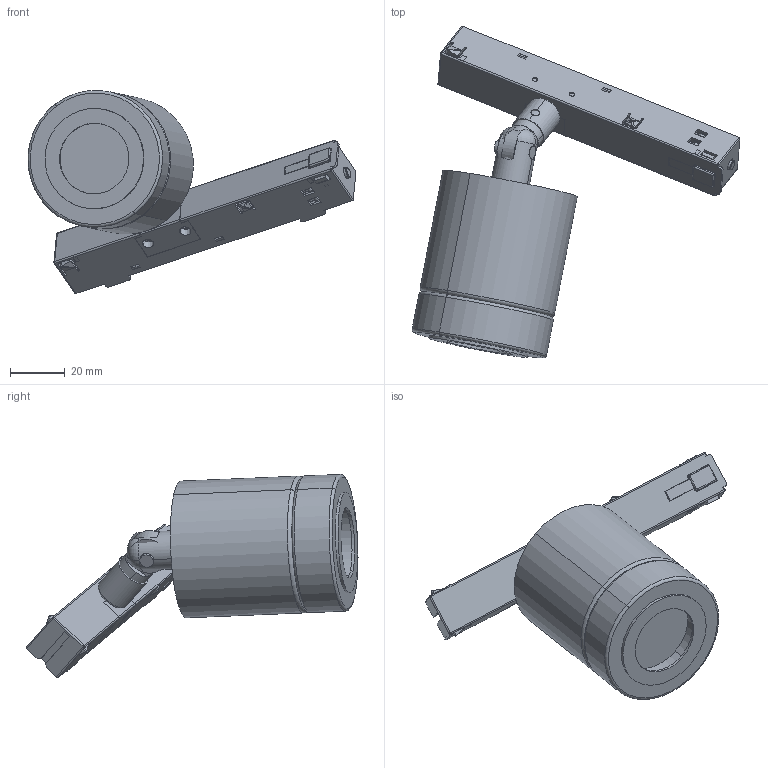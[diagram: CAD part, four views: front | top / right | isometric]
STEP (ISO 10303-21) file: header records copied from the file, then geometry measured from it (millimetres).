
FILE_DESCRIPTION (( 'STEP AP214' ), '1' );
FILE_NAME ('TEA_track_light.STEP', '2025-09-25T08:26:07', ( '' ), ( '' ), 'SwSTEP 2.0', 'SolidWorks 2018', '' );
FILE_SCHEMA (( 'AUTOMOTIVE_DESIGN' ));
Length unit declared in the file: millimetre
Products named in the file (5): patín; regalo; Rotula2; TEA_track_light; tubo-rotula
Assembly tree (4 placements, depth 2):
  TEA_track_light
    regalo
    Rotula2
    tubo-rotula
    patín
Bounding box: 119.56 x 121.05 x 74.08 mm (x, y, z)
Volume: 91985.9 mm3; surface area: 57058.7 mm2
Topology: 9 solids, 39 shells, 1634 faces, 4507 edges, 2937 vertices
Faces by surface type: plane 1240, cylinder 255, bspline 77, cone 42, torus 20
Entity records: 74470 total; most frequent: CARTESIAN_POINT 18126, ORIENTED_EDGE 8968, DIRECTION 6595, EDGE_CURVE 4490, VERTEX_POINT 2937, VECTOR 2629, LINE 2629, AXIS2_PLACEMENT_3D 1983
